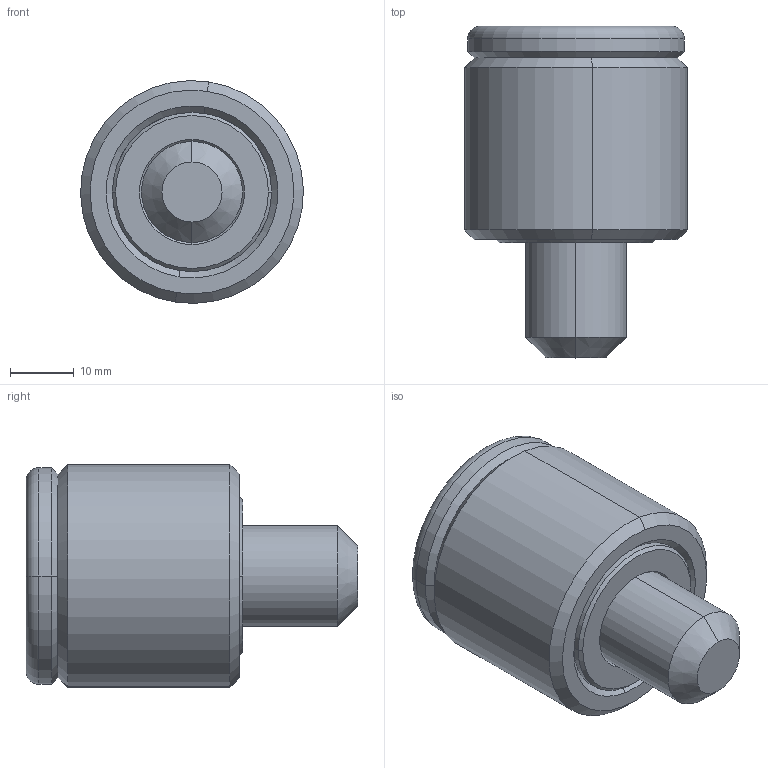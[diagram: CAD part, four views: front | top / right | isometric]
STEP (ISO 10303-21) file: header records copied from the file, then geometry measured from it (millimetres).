
FILE_DESCRIPTION (( 'STEP AP214' ), '1' );
FILE_NAME ('QMLH35-58-11-AS.STEP', '2022-04-29T14:41:28', ( '' ), ( '' ), 'SwSTEP 2.0', 'SolidWorks 2020', '' );
FILE_SCHEMA (( 'AUTOMOTIVE_DESIGN' ));
Length unit declared in the file: millimetre
Products named in the file (4): MBT01-DT-101_QMLH35-58-11; MBT01-DT-102_QMLHB35; socket set screw flat point_ai_SSFLATSKT 0.625-11x1.5-HX-N; QMLH35-58-11-AS
Assembly tree (3 placements, depth 2):
  QMLH35-58-11-AS
    MBT01-DT-101_QMLH35-58-11
    MBT01-DT-102_QMLHB35
    socket set screw flat point_ai_SSFLATSKT 0.625-11x1.5-HX-N
Bounding box: 34.99 x 52.1 x 34.99 mm (x, y, z)
Volume: 34398.3 mm3; surface area: 14114 mm2
Topology: 3 solids, 3 shells, 282 faces, 729 edges, 479 vertices
Faces by surface type: plane 146, bspline 95, cone 20, cylinder 17, torus 4
Entity records: 16571 total; most frequent: CARTESIAN_POINT 7883, ORIENTED_EDGE 1458, DIRECTION 954, EDGE_CURVE 729, VERTEX_POINT 479, LINE 460, VECTOR 460, EDGE_LOOP 310
